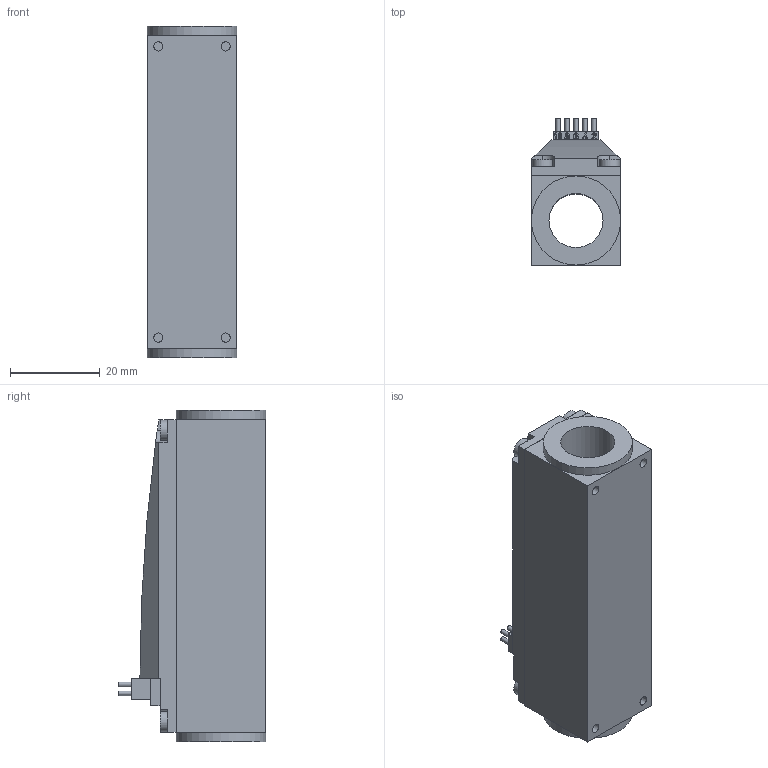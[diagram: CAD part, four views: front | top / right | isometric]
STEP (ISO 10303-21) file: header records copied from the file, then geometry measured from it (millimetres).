
FILE_DESCRIPTION(/* description */ (''),/* implementation_level */ '2;1');
FILE_NAME(/* name */ '2070_0x.stp',/* time_stamp */ '2017-08-29T10:54:55+02:00',/* author */ ('DR. FRITZ FAULHABER GmbH & Co. KG'),/* organization */ ('DR. FRITZ FAULHABER GmbH & Co. KG'),/* preprocessor_version */ 'ST-DEVELOPER v16',/* originating_system */ 'SIEMENS PLM Software NX 10.0',/* authorisation */ '');
FILE_SCHEMA (('AUTOMOTIVE_DESIGN { 1 0 10303 214 3 1 1 1 }'));
Length unit declared in the file: millimetre
Products named in the file (1): Alle_Motoren
Bounding box: 20 x 32.95 x 74 mm (x, y, z)
Volume: 28943 mm3; surface area: 10481.5 mm2
Topology: 1 solids, 1 shells, 180 faces, 418 edges, 278 vertices
Faces by surface type: plane 118, extrusion 36, cylinder 26
Full cylindrical faces by diameter (mm): 1 x10, 2.05 x4, 4.5 x4, 12.08 x1, 19.9 x2
Entity records: 6051 total; most frequent: CARTESIAN_POINT 2254, ORIENTED_EDGE 794, DIRECTION 611, EDGE_CURVE 397, VERTEX_POINT 278, EDGE_LOOP 241, VECTOR 217, B_SPLINE_CURVE_WITH_KNOTS 200
